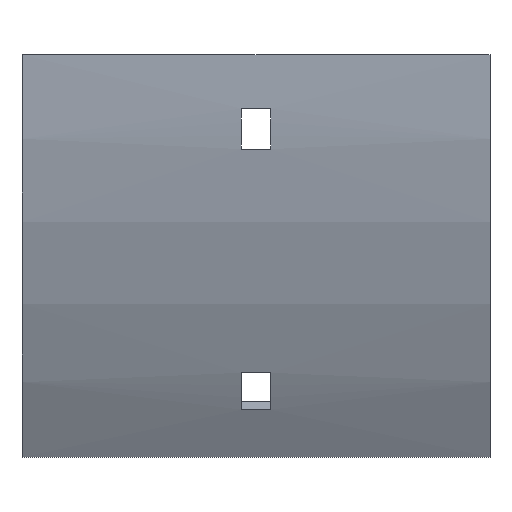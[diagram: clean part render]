
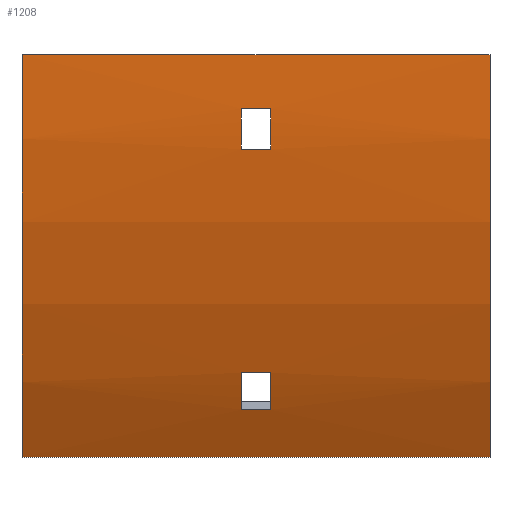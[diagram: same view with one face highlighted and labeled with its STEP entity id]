
A CAD part, front view. The second image highlights one B-rep face of the part: STEP entity #1208.
In plain terms, the highlighted cylindrical face has radius 179 mm (diameter 358 mm), a partial arc.
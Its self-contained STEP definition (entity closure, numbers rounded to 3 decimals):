
#33 = VERTEX_POINT ( 'NONE', #1489 ) ;
#57 = FACE_BOUND ( 'NONE', #1616, .T. ) ;
#68 = ORIENTED_EDGE ( 'NONE', *, *, #1586, .F. ) ;
#86 = ORIENTED_EDGE ( 'NONE', *, *, #1112, .F. ) ;
#99 = ORIENTED_EDGE ( 'NONE', *, *, #303, .T. ) ;
#140 = VERTEX_POINT ( 'NONE', #869 ) ;
#145 = AXIS2_PLACEMENT_3D ( 'NONE', #1214, #1372, #289 ) ;
#197 = EDGE_CURVE ( 'NONE', #273, #1226, #985, .T. ) ;
#200 = VECTOR ( 'NONE', #918, 1000. ) ;
#205 = ORIENTED_EDGE ( 'NONE', *, *, #405, .T. ) ;
#251 = DIRECTION ( 'NONE',  ( 0., 0., -1. ) ) ;
#271 = VERTEX_POINT ( 'NONE', #1573 ) ;
#273 = VERTEX_POINT ( 'NONE', #364 ) ;
#286 = CARTESIAN_POINT ( 'NONE',  ( 3.25, -64.448, -70.695 ) ) ;
#289 = DIRECTION ( 'NONE',  ( 0., 0., 1. ) ) ;
#294 = LINE ( 'NONE', #1057, #200 ) ;
#303 = EDGE_CURVE ( 'NONE', #271, #1120, #1516, .T. ) ;
#314 = ORIENTED_EDGE ( 'NONE', *, *, #197, .F. ) ;
#338 = AXIS2_PLACEMENT_3D ( 'NONE', #1023, #1558, #379 ) ;
#364 = CARTESIAN_POINT ( 'NONE',  ( -3.25, -64.448, -70.695 ) ) ;
#366 = EDGE_LOOP ( 'NONE', ( #205, #1627, #1561, #1257 ) ) ;
#367 = DIRECTION ( 'NONE',  ( 1., 0., 0. ) ) ;
#374 = DIRECTION ( 'NONE',  ( 1., 0., 0. ) ) ;
#379 = DIRECTION ( 'NONE',  ( 0., 0., -1. ) ) ;
#383 = VERTEX_POINT ( 'NONE', #1352 ) ;
#405 = EDGE_CURVE ( 'NONE', #140, #1565, #294, .T. ) ;
#418 = AXIS2_PLACEMENT_3D ( 'NONE', #1355, #1471, #946 ) ;
#424 = DIRECTION ( 'NONE',  ( 0., 0., 1. ) ) ;
#431 = CARTESIAN_POINT ( 'NONE',  ( -3.25, -77.764, -21. ) ) ;
#432 = VERTEX_POINT ( 'NONE', #286 ) ;
#433 = VECTOR ( 'NONE', #1636, 1000. ) ;
#442 = CARTESIAN_POINT ( 'NONE',  ( 52., 100., 0. ) ) ;
#456 = VERTEX_POINT ( 'NONE', #492 ) ;
#492 = CARTESIAN_POINT ( 'NONE',  ( 52., -79., 0. ) ) ;
#507 = CARTESIAN_POINT ( 'NONE',  ( -52., -55.019, -89.5 ) ) ;
#563 = CARTESIAN_POINT ( 'NONE',  ( 52., -64.448, -70.695 ) ) ;
#632 = VERTEX_POINT ( 'NONE', #1434 ) ;
#712 = CARTESIAN_POINT ( 'NONE',  ( -3.25, -60.67, -78.906 ) ) ;
#715 = DIRECTION ( 'NONE',  ( 1., 0., 0. ) ) ;
#729 = EDGE_LOOP ( 'NONE', ( #99, #1096, #86, #933 ) ) ;
#746 = EDGE_CURVE ( 'NONE', #1117, #140, #1115, .T. ) ;
#747 = ORIENTED_EDGE ( 'NONE', *, *, #903, .F. ) ;
#748 = LINE ( 'NONE', #1391, #1609 ) ;
#765 = EDGE_CURVE ( 'NONE', #432, #273, #961, .T. ) ;
#773 = CARTESIAN_POINT ( 'NONE',  ( 3.25, -78.597, -12. ) ) ;
#783 = EDGE_CURVE ( 'NONE', #632, #1120, #1247, .T. ) ;
#846 = DIRECTION ( 'NONE',  ( 0., 0., -1. ) ) ;
#869 = CARTESIAN_POINT ( 'NONE',  ( 3.25, -77.764, -21. ) ) ;
#880 = LINE ( 'NONE', #994, #1258 ) ;
#903 = EDGE_CURVE ( 'NONE', #1226, #33, #748, .T. ) ;
#918 = DIRECTION ( 'NONE',  ( -1., 0., 0. ) ) ;
#932 = FACE_OUTER_BOUND ( 'NONE', #729, .T. ) ;
#933 = ORIENTED_EDGE ( 'NONE', *, *, #1550, .T. ) ;
#937 = DIRECTION ( 'NONE',  ( -1., 0., 0. ) ) ;
#942 = AXIS2_PLACEMENT_3D ( 'NONE', #442, #1590, #424 ) ;
#943 = VECTOR ( 'NONE', #970, 1000. ) ;
#946 = DIRECTION ( 'NONE',  ( 0., 0., 1. ) ) ;
#961 = LINE ( 'NONE', #563, #943 ) ;
#970 = DIRECTION ( 'NONE',  ( -1., 0., 0. ) ) ;
#971 = CIRCLE ( 'NONE', #1687, 179. ) ;
#975 = EDGE_CURVE ( 'NONE', #383, #1117, #880, .T. ) ;
#985 = CIRCLE ( 'NONE', #1066, 179. ) ;
#994 = CARTESIAN_POINT ( 'NONE',  ( 52., -78.597, -12. ) ) ;
#1023 = CARTESIAN_POINT ( 'NONE',  ( -52., 100., 0. ) ) ;
#1057 = CARTESIAN_POINT ( 'NONE',  ( 52., -77.764, -21. ) ) ;
#1066 = AXIS2_PLACEMENT_3D ( 'NONE', #1688, #1680, #251 ) ;
#1096 = ORIENTED_EDGE ( 'NONE', *, *, #783, .F. ) ;
#1112 = EDGE_CURVE ( 'NONE', #456, #632, #971, .T. ) ;
#1115 = CIRCLE ( 'NONE', #1637, 179. ) ;
#1117 = VERTEX_POINT ( 'NONE', #773 ) ;
#1120 = VERTEX_POINT ( 'NONE', #507 ) ;
#1148 = ORIENTED_EDGE ( 'NONE', *, *, #765, .F. ) ;
#1155 = VECTOR ( 'NONE', #937, 1000. ) ;
#1203 = LINE ( 'NONE', #1488, #1155 ) ;
#1208 = ADVANCED_FACE ( 'NONE', ( #932, #1615, #57 ), #1482, .T. ) ;
#1214 = CARTESIAN_POINT ( 'NONE',  ( -3.25, 100., 0. ) ) ;
#1226 = VERTEX_POINT ( 'NONE', #712 ) ;
#1247 = LINE ( 'NONE', #1484, #433 ) ;
#1257 = ORIENTED_EDGE ( 'NONE', *, *, #746, .T. ) ;
#1258 = VECTOR ( 'NONE', #1416, 1000. ) ;
#1272 = CIRCLE ( 'NONE', #418, 179. ) ;
#1352 = CARTESIAN_POINT ( 'NONE',  ( -3.25, -78.597, -12. ) ) ;
#1355 = CARTESIAN_POINT ( 'NONE',  ( 3.25, 100., 0. ) ) ;
#1372 = DIRECTION ( 'NONE',  ( -1., 0., 0. ) ) ;
#1391 = CARTESIAN_POINT ( 'NONE',  ( 52., -60.67, -78.906 ) ) ;
#1416 = DIRECTION ( 'NONE',  ( 1., 0., 0. ) ) ;
#1425 = DIRECTION ( 'NONE',  ( 0., 0., -1. ) ) ;
#1434 = CARTESIAN_POINT ( 'NONE',  ( 52., -55.019, -89.5 ) ) ;
#1471 = DIRECTION ( 'NONE',  ( -1., 0., 0. ) ) ;
#1482 = CYLINDRICAL_SURFACE ( 'NONE', #942, 179. ) ;
#1484 = CARTESIAN_POINT ( 'NONE',  ( 52., -55.019, -89.5 ) ) ;
#1488 = CARTESIAN_POINT ( 'NONE',  ( 52., -79., 0. ) ) ;
#1489 = CARTESIAN_POINT ( 'NONE',  ( 3.25, -60.67, -78.906 ) ) ;
#1491 = CIRCLE ( 'NONE', #145, 179. ) ;
#1516 = CIRCLE ( 'NONE', #338, 179. ) ;
#1550 = EDGE_CURVE ( 'NONE', #456, #271, #1203, .T. ) ;
#1554 = CARTESIAN_POINT ( 'NONE',  ( 52., 100., 0. ) ) ;
#1558 = DIRECTION ( 'NONE',  ( 1., 0., 0. ) ) ;
#1561 = ORIENTED_EDGE ( 'NONE', *, *, #975, .T. ) ;
#1565 = VERTEX_POINT ( 'NONE', #431 ) ;
#1573 = CARTESIAN_POINT ( 'NONE',  ( -52., -79., 0. ) ) ;
#1586 = EDGE_CURVE ( 'NONE', #33, #432, #1272, .T. ) ;
#1590 = DIRECTION ( 'NONE',  ( -1., 0., 0. ) ) ;
#1609 = VECTOR ( 'NONE', #367, 1000. ) ;
#1615 = FACE_BOUND ( 'NONE', #366, .T. ) ;
#1616 = EDGE_LOOP ( 'NONE', ( #314, #1148, #68, #747 ) ) ;
#1627 = ORIENTED_EDGE ( 'NONE', *, *, #1640, .T. ) ;
#1628 = CARTESIAN_POINT ( 'NONE',  ( 3.25, 100., 0. ) ) ;
#1636 = DIRECTION ( 'NONE',  ( -1., 0., 0. ) ) ;
#1637 = AXIS2_PLACEMENT_3D ( 'NONE', #1628, #715, #846 ) ;
#1640 = EDGE_CURVE ( 'NONE', #1565, #383, #1491, .T. ) ;
#1680 = DIRECTION ( 'NONE',  ( 1., 0., 0. ) ) ;
#1687 = AXIS2_PLACEMENT_3D ( 'NONE', #1554, #374, #1425 ) ;
#1688 = CARTESIAN_POINT ( 'NONE',  ( -3.25, 100., 0. ) ) ;
